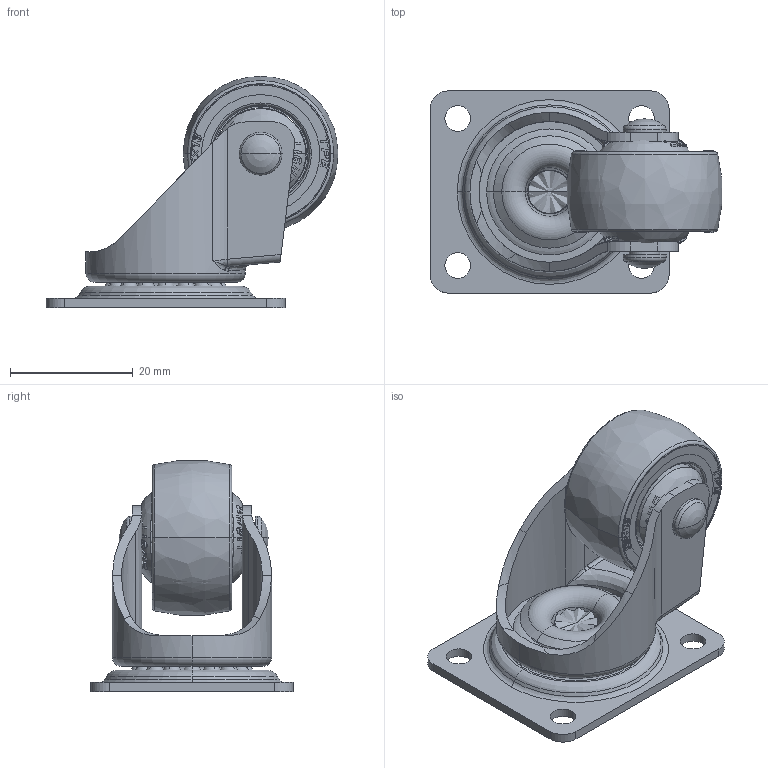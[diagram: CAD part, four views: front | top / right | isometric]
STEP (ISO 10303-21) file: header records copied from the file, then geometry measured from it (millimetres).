
FILE_DESCRIPTION((''),'2;1');
FILE_NAME('810-HD_ASM','2021-06-15T',('Lenovo'),(''),'PRO/ENGINEER BY PARAMETRIC TECHNOLOGY CORPORATION, 2010280','PRO/ENGINEER BY PARAMETRIC TECHNOLOGY CORPORATION, 2010280','');
FILE_SCHEMA(('CONFIG_CONTROL_DESIGN'));
Length unit declared in the file: millimetre
Products named in the file (13): 810-DB_; 810-GZS_; 810-SSZJ_; 810-GZX_; 810-XBP_; 810-LZMD_; 810-ZXWD_; 08-1-25-TPR-L__; 08-1-25-TPR-W__; 606__; 08-25-F-00__; 08-8-25___ASM; 810-HD_ASM
Assembly tree (13 placements, depth 3):
  810-HD_ASM
    810-DB_
    810-GZS_
    810-SSZJ_
    810-GZX_
    810-XBP_
    810-LZMD_
    810-ZXWD_
    08-8-25___ASM
      08-1-25-TPR-L__
      08-1-25-TPR-W__
      606__
      08-25-F-00__  x2
Bounding box: 47.62 x 33 x 37.71 mm (x, y, z)
Volume: 10813.6 mm3; surface area: 18576.5 mm2
Topology: 49 solids, 52 shells, 885 faces, 2320 edges, 1423 vertices
Faces by surface type: plane 367, extrusion 176, torus 80, sphere 80, cylinder 72, bspline 60, cone 50
Entity records: 25127 total; most frequent: CARTESIAN_POINT 8378, ORIENTED_EDGE 3560, DIRECTION 2984, EDGE_CURVE 1786, VERTEX_POINT 1175, AXIS2_PLACEMENT_3D 1048, VECTOR 888, EDGE_LOOP 799
